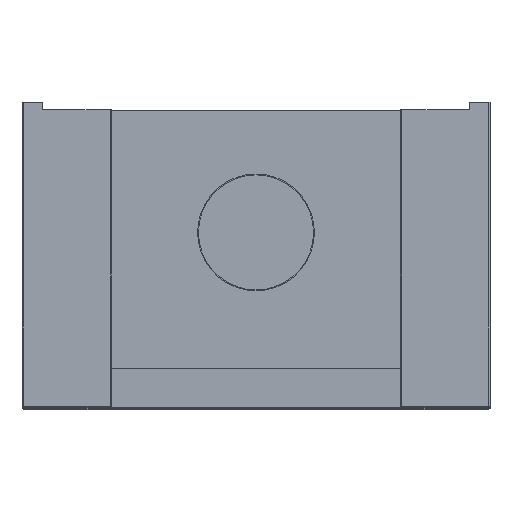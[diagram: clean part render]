
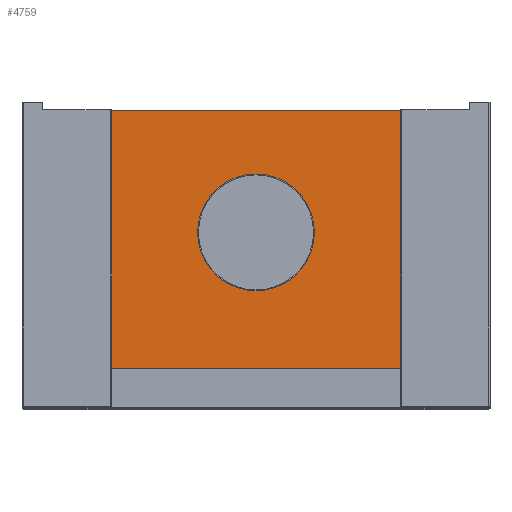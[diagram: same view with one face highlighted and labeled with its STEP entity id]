
A CAD part, top view. The second image highlights one B-rep face of the part: STEP entity #4759.
In plain terms, the highlighted planar face has unit normal (0, 0, 1).
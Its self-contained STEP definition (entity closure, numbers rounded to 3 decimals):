
#4759 = ADVANCED_FACE( '', ( #9725, #9726 ), #9727, .T. );
#9725 = FACE_OUTER_BOUND( '', #15271, .T. );
#9726 = FACE_BOUND( '', #15272, .T. );
#9727 = PLANE( '', #15273 );
#15271 = EDGE_LOOP( '', ( #30892, #30893, #30894, #30895 ) );
#15272 = EDGE_LOOP( '', ( #30896 ) );
#15273 = AXIS2_PLACEMENT_3D( '', #30897, #30898, #30899 );
#30892 = ORIENTED_EDGE( '', *, *, #38736, .F. );
#30893 = ORIENTED_EDGE( '', *, *, #33664, .F. );
#30894 = ORIENTED_EDGE( '', *, *, #37356, .T. );
#30895 = ORIENTED_EDGE( '', *, *, #38894, .T. );
#30896 = ORIENTED_EDGE( '', *, *, #37143, .T. );
#30897 = CARTESIAN_POINT( '', ( -293., -15., 1752. ) );
#30898 = DIRECTION( '', ( 0., 0., 1. ) );
#30899 = DIRECTION( '', ( 1., 0., 0. ) );
#33664 = EDGE_CURVE( '', #39778, #39774, #39780, .T. );
#37143 = EDGE_CURVE( '', #45381, #45381, #45382, .T. );
#37356 = EDGE_CURVE( '', #39778, #45676, #45678, .T. );
#38736 = EDGE_CURVE( '', #39774, #47370, #47371, .T. );
#38894 = EDGE_CURVE( '', #45676, #47370, #47553, .T. );
#39774 = VERTEX_POINT( '', #48489 );
#39778 = VERTEX_POINT( '', #48495 );
#39780 = LINE( '', #48498, #48499 );
#45381 = VERTEX_POINT( '', #60292 );
#45382 = CIRCLE( '', #60293, 118.469 );
#45676 = VERTEX_POINT( '', #60900 );
#45678 = LINE( '', #60903, #60904 );
#47370 = VERTEX_POINT( '', #64495 );
#47371 = LINE( '', #64496, #64497 );
#47553 = LINE( '', #64862, #64863 );
#48489 = CARTESIAN_POINT( '', ( 293., -15., 1752. ) );
#48495 = CARTESIAN_POINT( '', ( -293., -15., 1752. ) );
#48498 = CARTESIAN_POINT( '', ( -293., -15., 1752. ) );
#48499 = VECTOR( '', #66604, 1000. );
#60292 = CARTESIAN_POINT( '', ( 118.469, -263.1, 1752. ) );
#60293 = AXIS2_PLACEMENT_3D( '', #69086, #69087, #69088 );
#60900 = CARTESIAN_POINT( '', ( -293., -539.683, 1752. ) );
#60903 = CARTESIAN_POINT( '', ( -293., -15., 1752. ) );
#60904 = VECTOR( '', #69244, 1000. );
#64495 = CARTESIAN_POINT( '', ( 293., -539.683, 1752. ) );
#64496 = CARTESIAN_POINT( '', ( 293., -15., 1752. ) );
#64497 = VECTOR( '', #70042, 1000. );
#64862 = CARTESIAN_POINT( '', ( -293., -539.683, 1752. ) );
#64863 = VECTOR( '', #70142, 1000. );
#66604 = DIRECTION( '', ( 1., 0., 0. ) );
#69086 = CARTESIAN_POINT( '', ( 0., -263.1, 1752. ) );
#69087 = DIRECTION( '', ( 0., 0., -1. ) );
#69088 = DIRECTION( '', ( 1., 0., 0. ) );
#69244 = DIRECTION( '', ( 0., -1., 0. ) );
#70042 = DIRECTION( '', ( 0., -1., 0. ) );
#70142 = DIRECTION( '', ( 1., 0., 0. ) );
